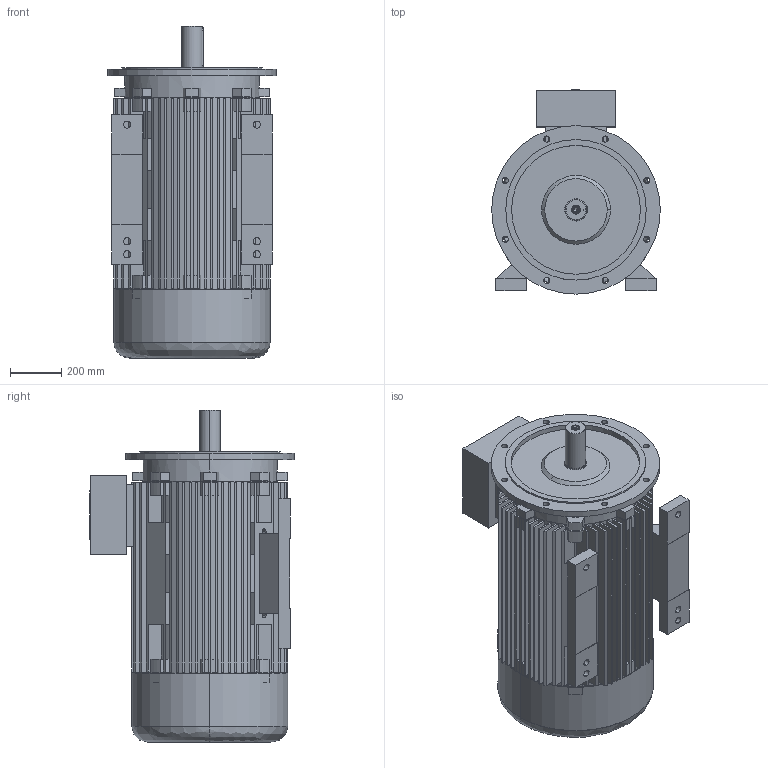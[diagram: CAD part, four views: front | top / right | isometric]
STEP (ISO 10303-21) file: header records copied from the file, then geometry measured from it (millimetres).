
FILE_DESCRIPTION (( 'STEP AP203' ), '1' );
FILE_NAME ('20.18381_C 7AZ 315L -4, -6 B35 STANDK.STEP', '2018-05-18T11:52:06', ( '' ), ( '' ), 'SwSTEP 2.0', 'SolidWorks 2017', '' );
FILE_SCHEMA (( 'CONFIG_CONTROL_DESIGN' ));
Length unit declared in the file: millimetre
Products named in the file (1): 20.18381_C 7AZ 315L -4, -6 B35 STANDK
Bounding box: 660 x 800 x 1300 mm (x, y, z)
Volume: 104805284.9 mm3; surface area: 11719545.8 mm2
Topology: 7 solids, 7 shells, 850 faces, 2292 edges, 1519 vertices
Faces by surface type: plane 676, cylinder 143, cone 18, bspline 13
Entity records: 27452 total; most frequent: CARTESIAN_POINT 5589, ORIENTED_EDGE 4580, DIRECTION 4444, EDGE_CURVE 2290, VECTOR 1720, LINE 1720, VERTEX_POINT 1519, AXIS2_PLACEMENT_3D 1362
